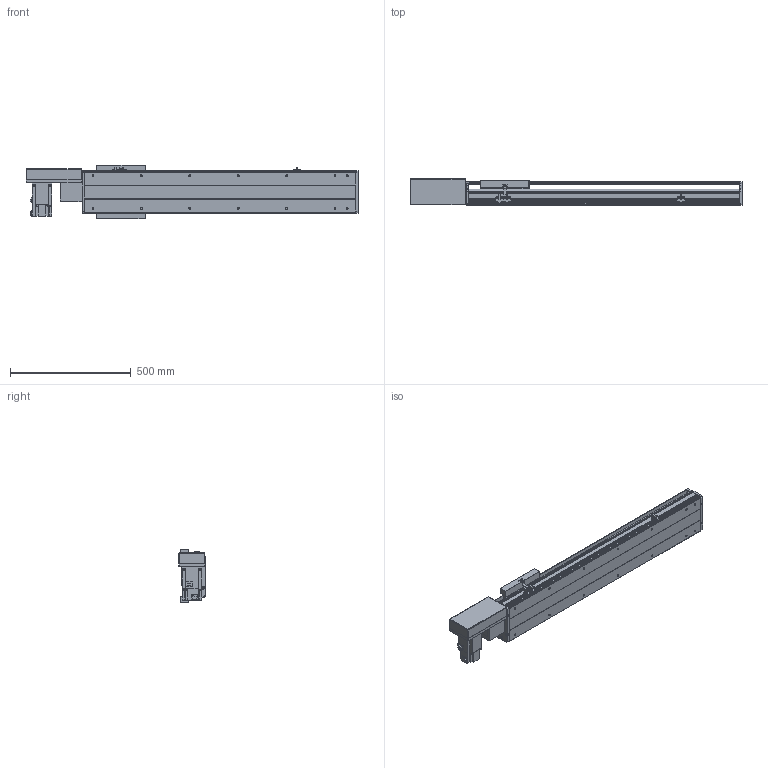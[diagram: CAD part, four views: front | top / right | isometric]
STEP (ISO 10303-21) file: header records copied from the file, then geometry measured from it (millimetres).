
FILE_DESCRIPTION(/* description */ ('STEP AP214'),/* implementation_level */ '2;1');
FILE_NAME(/* name */ 'PBS200-P40-S750-R-T75-C1-N(0)',/* time_stamp */ '2022-06-11T08:04:10+02:00',/* author */ ('License CC BY-ND 4.0'),/* organization */ ('CADENAS'),/* preprocessor_version */ 'ST-DEVELOPER v18.102',/* originating_system */ 'PARTsolutions',/* authorisation */ ' ');
FILE_SCHEMA (('AUTOMOTIVE_DESIGN {1 0 10303 214 3 1 1}'));
Length unit declared in the file: millimetre
Products named in the file (7): PBS200-P40-S750-R-T75-C1-N(0); PBS200_sensor; PBS200_plant; PBS200_sliser; T75-p1; PBS200T-R_motors; PBS200-S750()_body
Assembly tree (8 placements, depth 2):
  PBS200-P40-S750-R-T75-C1-N(0)
    PBS200_sensor  x3
    PBS200_plant
    PBS200_sliser
    T75-p1
    PBS200T-R_motors
    PBS200-S750()_body
Bounding box: 1372 x 109 x 221 mm (x, y, z)
Volume: 9675769.5 mm3; surface area: 1573653.4 mm2
Topology: 8 solids, 8 shells, 914 faces, 2364 edges, 1542 vertices
Faces by surface type: plane 572, cylinder 296, cone 46
Full cylindrical faces by diameter (mm): 2.459 x6, 3.242 x4, 4.5 x6, 4.917 x4, 5 x6, 6 x7, 6.6 x8, 6.647 x18, 8 x6, 10 x4, 12 x8, 38 x2, 40 x1, 70 x1
Entity records: 24461 total; most frequent: DIRECTION 4303, CARTESIAN_POINT 4174, ORIENTED_EDGE 3970, EDGE_CURVE 1985, AXIS2_PLACEMENT_3D 1495, VERTEX_POINT 1366, LINE 1313, VECTOR 1313
